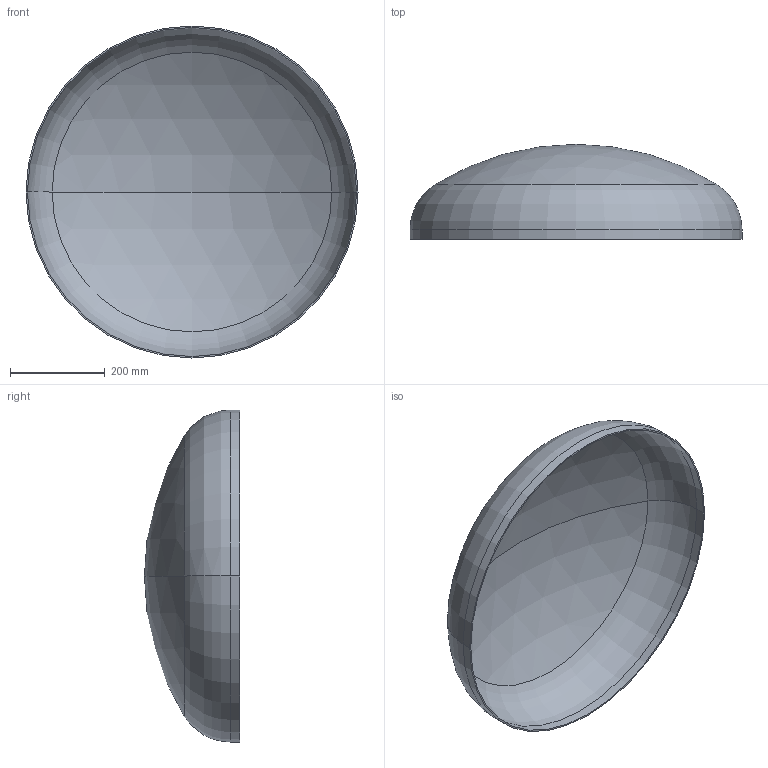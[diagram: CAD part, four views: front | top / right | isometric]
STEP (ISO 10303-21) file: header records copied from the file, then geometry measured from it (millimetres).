
FILE_DESCRIPTION (( 'STEP AP203' ), '1' );
FILE_NAME ('DIN 28013 Korbbogenform_-_Boden DIN 28013 - 700 x 20 - I - s=3.step', '2016-07-01T08:03:17', ( '' ), ( '' ), 'SwSTEP 2.0', 'SolidWorks 2013', '' );
FILE_SCHEMA (( 'CONFIG_CONTROL_DESIGN' ));
Length unit declared in the file: millimetre
Products named in the file (1): DIN 28013 Korbbogenform_-_Boden DIN 28013 - 700 x 20 - I - s=3
Bounding box: 700 x 200.47 x 700 mm (x, y, z)
Volume: 1727754.2 mm3; surface area: 1158423.6 mm2
Topology: 1 solids, 1 shells, 13 faces, 24 edges, 14 vertices
Faces by surface type: torus 4, cylinder 4, sphere 4, plane 1
Entity records: 407 total; most frequent: DIRECTION 72, CARTESIAN_POINT 52, ORIENTED_EDGE 48, AXIS2_PLACEMENT_3D 34, EDGE_CURVE 24, CIRCLE 20, EDGE_LOOP 14, VERTEX_POINT 14
